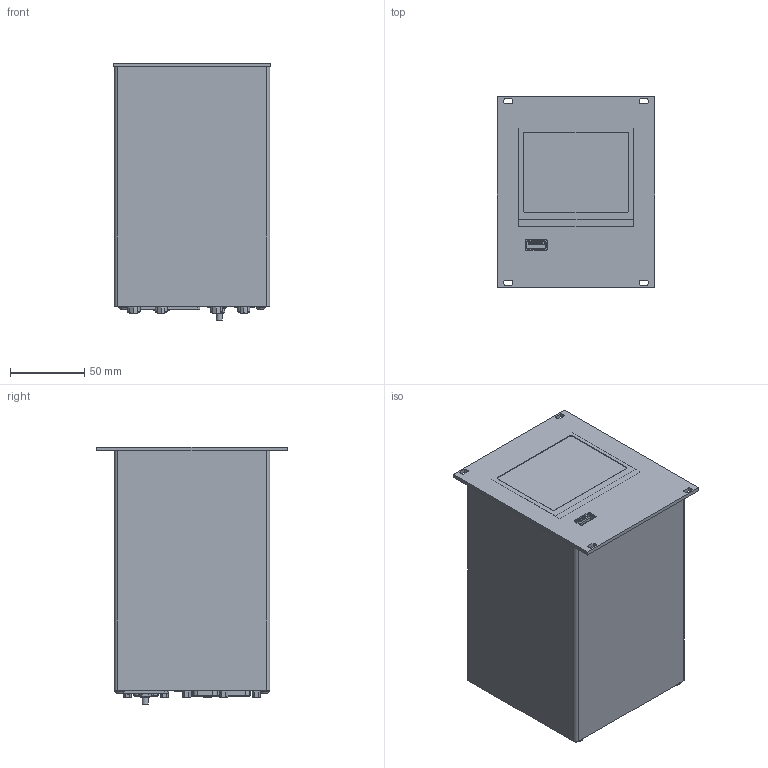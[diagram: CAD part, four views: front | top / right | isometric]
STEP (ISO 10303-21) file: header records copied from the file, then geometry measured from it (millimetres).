
FILE_DESCRIPTION((''),'2;1');
FILE_NAME('C:\Vault-Arbeitsordner\Konstruktionen\GRAPHIX controller\GRAPHIX TWO.stp','2015-02-27T12:17:51',(''),(''),'Autodesk Inventor 2012','Autodesk Inventor 2012','');
FILE_SCHEMA(('CONFIG_CONTROL_DESIGN'));
Length unit declared in the file: millimetre
Products named in the file (1): GRAPHIX TWO
Bounding box: 106.4 x 128.4 x 174 mm (x, y, z)
Volume: 1801569.5 mm3; surface area: 128616.3 mm2
Topology: 1 solids, 12 shells, 2497 faces, 6357 edges, 3999 vertices
Faces by surface type: plane 1481, cylinder 583, cone 229, bspline 119, torus 67, sphere 18
Full cylindrical faces by diameter (mm): 1.067 x9, 1.2 x64, 2.156 x10, 2.5 x1, 2.606 x10, 3 x4, 3.2 x10, 3.5 x1, 4 x2, 4.3 x1, 5.7 x4, 9 x1
Entity records: 78965 total; most frequent: CARTESIAN_POINT 17937, ORIENTED_EDGE 12066, DIRECTION 11779, EDGE_CURVE 6033, VECTOR 4129, LINE 4129, VERTEX_POINT 3912, AXIS2_PLACEMENT_3D 3825
